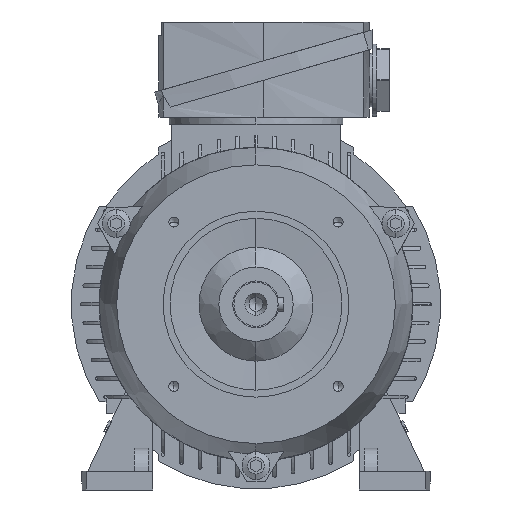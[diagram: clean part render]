
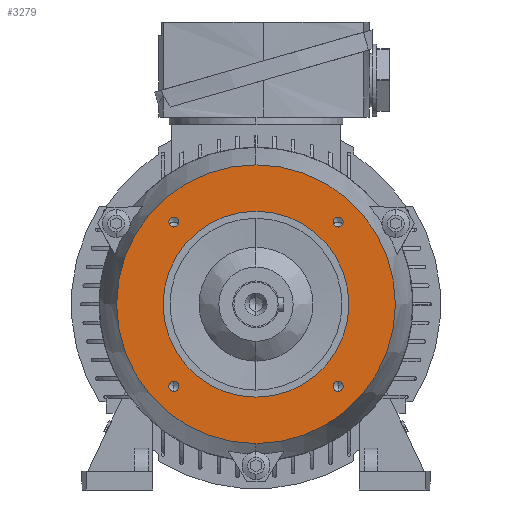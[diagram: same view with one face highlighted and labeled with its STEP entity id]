
A CAD part, left-side view. The second image highlights one B-rep face of the part: STEP entity #3279.
In plain terms, the highlighted planar face has unit normal (-1, 0, 0).
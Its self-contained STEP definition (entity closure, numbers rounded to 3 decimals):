
#621 = CIRCLE ( 'NONE', #19226, 2.15 ) ;
#624 = FACE_BOUND ( 'NONE', #10024, .T. ) ;
#949 = CIRCLE ( 'NONE', #7001, 2.15 ) ;
#1362 = CARTESIAN_POINT ( 'NONE',  ( -27., 35.355, -35.355 ) ) ;
#1414 = CARTESIAN_POINT ( 'NONE',  ( -27., 35.355, 37.505 ) ) ;
#1680 = CARTESIAN_POINT ( 'NONE',  ( -27., 0., -60. ) ) ;
#1695 = EDGE_CURVE ( 'NONE', #10846, #3134, #2193, .T. ) ;
#2193 = CIRCLE ( 'NONE', #18584, 60. ) ;
#2421 = DIRECTION ( 'NONE',  ( 1., 0., 0. ) ) ;
#2943 = VERTEX_POINT ( 'NONE', #11198 ) ;
#3134 = VERTEX_POINT ( 'NONE', #17939 ) ;
#3193 = CARTESIAN_POINT ( 'NONE',  ( -27., -35.355, -35.355 ) ) ;
#3248 = CIRCLE ( 'NONE', #18990, 2.15 ) ;
#3279 = ADVANCED_FACE ( 'NONE', ( #624, #5279, #15620, #15005, #19806, #9826 ), #18789, .T. ) ;
#3372 = DIRECTION ( 'NONE',  ( 0., 0., -1. ) ) ;
#4160 = CARTESIAN_POINT ( 'NONE',  ( -27., -35.355, -35.355 ) ) ;
#4219 = AXIS2_PLACEMENT_3D ( 'NONE', #1362, #15030, #3372 ) ;
#4470 = CIRCLE ( 'NONE', #4219, 2.15 ) ;
#5172 = DIRECTION ( 'NONE',  ( 0., 0., -1. ) ) ;
#5279 = FACE_OUTER_BOUND ( 'NONE', #6655, .T. ) ;
#5456 = CIRCLE ( 'NONE', #23299, 60. ) ;
#5471 = DIRECTION ( 'NONE',  ( -1., 0., 0. ) ) ;
#5894 = ORIENTED_EDGE ( 'NONE', *, *, #11765, .T. ) ;
#6134 = DIRECTION ( 'NONE',  ( 0., 0., -1. ) ) ;
#6247 = AXIS2_PLACEMENT_3D ( 'NONE', #6466, #19710, #8416 ) ;
#6466 = CARTESIAN_POINT ( 'NONE',  ( -27., -35.355, 35.355 ) ) ;
#6655 = EDGE_LOOP ( 'NONE', ( #16643, #8516 ) ) ;
#6813 = AXIS2_PLACEMENT_3D ( 'NONE', #3193, #16696, #5172 ) ;
#7001 = AXIS2_PLACEMENT_3D ( 'NONE', #11500, #24404, #13462 ) ;
#7299 = CARTESIAN_POINT ( 'NONE',  ( -27., 35.355, 35.355 ) ) ;
#7329 = DIRECTION ( 'NONE',  ( 1., 0., 0. ) ) ;
#7637 = VERTEX_POINT ( 'NONE', #13809 ) ;
#8416 = DIRECTION ( 'NONE',  ( 0., 0., -1. ) ) ;
#8516 = ORIENTED_EDGE ( 'NONE', *, *, #9983, .F. ) ;
#8589 = EDGE_LOOP ( 'NONE', ( #14912, #15953 ) ) ;
#8891 = CARTESIAN_POINT ( 'NONE',  ( -27., -35.355, 35.355 ) ) ;
#8909 = CIRCLE ( 'NONE', #22128, 2.15 ) ;
#9105 = DIRECTION ( 'NONE',  ( 1., 0., 0. ) ) ;
#9234 = DIRECTION ( 'NONE',  ( 0., 0., -1. ) ) ;
#9456 = CARTESIAN_POINT ( 'NONE',  ( -27., 0., 50. ) ) ;
#9545 = ORIENTED_EDGE ( 'NONE', *, *, #14173, .T. ) ;
#9826 = FACE_BOUND ( 'NONE', #15149, .T. ) ;
#9983 = EDGE_CURVE ( 'NONE', #3134, #10846, #5456, .T. ) ;
#10024 = EDGE_LOOP ( 'NONE', ( #5894, #10687 ) ) ;
#10507 = CARTESIAN_POINT ( 'NONE',  ( -27., 35.355, -33.205 ) ) ;
#10650 = CARTESIAN_POINT ( 'NONE',  ( -27., 0., 40. ) ) ;
#10687 = ORIENTED_EDGE ( 'NONE', *, *, #13767, .T. ) ;
#10803 = DIRECTION ( 'NONE',  ( 1., 0., 0. ) ) ;
#10846 = VERTEX_POINT ( 'NONE', #1680 ) ;
#10858 = DIRECTION ( 'NONE',  ( 0., 0., -1. ) ) ;
#11198 = CARTESIAN_POINT ( 'NONE',  ( -27., -35.355, 33.205 ) ) ;
#11298 = DIRECTION ( 'NONE',  ( 1., 0., 0. ) ) ;
#11430 = DIRECTION ( 'NONE',  ( 0., 0., 1. ) ) ;
#11500 = CARTESIAN_POINT ( 'NONE',  ( -27., 35.355, 35.355 ) ) ;
#11658 = EDGE_CURVE ( 'NONE', #2943, #15270, #24489, .T. ) ;
#11689 = EDGE_CURVE ( 'NONE', #21437, #14285, #19649, .T. ) ;
#11728 = EDGE_CURVE ( 'NONE', #20915, #22514, #4470, .T. ) ;
#11733 = EDGE_CURVE ( 'NONE', #20556, #20325, #3248, .T. ) ;
#11765 = EDGE_CURVE ( 'NONE', #17307, #7637, #22767, .T. ) ;
#12340 = CARTESIAN_POINT ( 'NONE',  ( -27., -35.355, -33.205 ) ) ;
#13462 = DIRECTION ( 'NONE',  ( 0., 0., -1. ) ) ;
#13537 = CARTESIAN_POINT ( 'NONE',  ( -27., -35.355, -37.505 ) ) ;
#13712 = ORIENTED_EDGE ( 'NONE', *, *, #11689, .T. ) ;
#13767 = EDGE_CURVE ( 'NONE', #7637, #17307, #13808, .T. ) ;
#13796 = ORIENTED_EDGE ( 'NONE', *, *, #13871, .T. ) ;
#13808 = CIRCLE ( 'NONE', #15919, 40. ) ;
#13809 = CARTESIAN_POINT ( 'NONE',  ( -27., 0., -40. ) ) ;
#13871 = EDGE_CURVE ( 'NONE', #20325, #20556, #949, .T. ) ;
#13986 = EDGE_CURVE ( 'NONE', #22514, #20915, #8909, .T. ) ;
#14106 = CARTESIAN_POINT ( 'NONE',  ( -27., 0., 0. ) ) ;
#14173 = EDGE_CURVE ( 'NONE', #14285, #21437, #621, .T. ) ;
#14210 = CARTESIAN_POINT ( 'NONE',  ( -27., 35.355, 33.205 ) ) ;
#14275 = EDGE_CURVE ( 'NONE', #15270, #2943, #21776, .T. ) ;
#14285 = VERTEX_POINT ( 'NONE', #12340 ) ;
#14591 = ORIENTED_EDGE ( 'NONE', *, *, #11658, .T. ) ;
#14912 = ORIENTED_EDGE ( 'NONE', *, *, #11728, .T. ) ;
#15005 = FACE_BOUND ( 'NONE', #8589, .T. ) ;
#15030 = DIRECTION ( 'NONE',  ( 1., 0., 0. ) ) ;
#15149 = EDGE_LOOP ( 'NONE', ( #14591, #18749 ) ) ;
#15270 = VERTEX_POINT ( 'NONE', #15896 ) ;
#15620 = FACE_BOUND ( 'NONE', #19174, .T. ) ;
#15896 = CARTESIAN_POINT ( 'NONE',  ( -27., -35.355, 37.505 ) ) ;
#15919 = AXIS2_PLACEMENT_3D ( 'NONE', #21930, #10803, #23776 ) ;
#15953 = ORIENTED_EDGE ( 'NONE', *, *, #13986, .T. ) ;
#15999 = DIRECTION ( 'NONE',  ( 0., 0., -1. ) ) ;
#16339 = CARTESIAN_POINT ( 'NONE',  ( -27., 35.355, -37.505 ) ) ;
#16643 = ORIENTED_EDGE ( 'NONE', *, *, #1695, .F. ) ;
#16696 = DIRECTION ( 'NONE',  ( 1., 0., 0. ) ) ;
#16982 = EDGE_LOOP ( 'NONE', ( #13712, #9545 ) ) ;
#17072 = ORIENTED_EDGE ( 'NONE', *, *, #11733, .T. ) ;
#17307 = VERTEX_POINT ( 'NONE', #10650 ) ;
#17595 = DIRECTION ( 'NONE',  ( 1., 0., 0. ) ) ;
#17885 = AXIS2_PLACEMENT_3D ( 'NONE', #8891, #21971, #10858 ) ;
#17939 = CARTESIAN_POINT ( 'NONE',  ( -27., 0., 60. ) ) ;
#18584 = AXIS2_PLACEMENT_3D ( 'NONE', #18702, #7329, #20514 ) ;
#18702 = CARTESIAN_POINT ( 'NONE',  ( -27., 0., 0. ) ) ;
#18749 = ORIENTED_EDGE ( 'NONE', *, *, #14275, .T. ) ;
#18789 = PLANE ( 'NONE',  #20850 ) ;
#18990 = AXIS2_PLACEMENT_3D ( 'NONE', #7299, #20483, #9234 ) ;
#19174 = EDGE_LOOP ( 'NONE', ( #17072, #13796 ) ) ;
#19226 = AXIS2_PLACEMENT_3D ( 'NONE', #4160, #17595, #6134 ) ;
#19649 = CIRCLE ( 'NONE', #6813, 2.15 ) ;
#19710 = DIRECTION ( 'NONE',  ( 1., 0., 0. ) ) ;
#19806 = FACE_BOUND ( 'NONE', #16982, .T. ) ;
#20325 = VERTEX_POINT ( 'NONE', #1414 ) ;
#20365 = CARTESIAN_POINT ( 'NONE',  ( -27., 35.355, -35.355 ) ) ;
#20483 = DIRECTION ( 'NONE',  ( 1., 0., 0. ) ) ;
#20514 = DIRECTION ( 'NONE',  ( 0., 0., -1. ) ) ;
#20556 = VERTEX_POINT ( 'NONE', #14210 ) ;
#20850 = AXIS2_PLACEMENT_3D ( 'NONE', #9456, #5471, #11430 ) ;
#20915 = VERTEX_POINT ( 'NONE', #16339 ) ;
#21437 = VERTEX_POINT ( 'NONE', #13537 ) ;
#21776 = CIRCLE ( 'NONE', #6247, 2.15 ) ;
#21930 = CARTESIAN_POINT ( 'NONE',  ( -27., 0., 0. ) ) ;
#21971 = DIRECTION ( 'NONE',  ( 1., 0., 0. ) ) ;
#22128 = AXIS2_PLACEMENT_3D ( 'NONE', #20365, #9105, #22182 ) ;
#22182 = DIRECTION ( 'NONE',  ( 0., 0., -1. ) ) ;
#22380 = CARTESIAN_POINT ( 'NONE',  ( -27., 0., 0. ) ) ;
#22514 = VERTEX_POINT ( 'NONE', #10507 ) ;
#22767 = CIRCLE ( 'NONE', #23780, 40. ) ;
#23299 = AXIS2_PLACEMENT_3D ( 'NONE', #14106, #2421, #15999 ) ;
#23776 = DIRECTION ( 'NONE',  ( 0., 0., 1. ) ) ;
#23780 = AXIS2_PLACEMENT_3D ( 'NONE', #22380, #11298, #24222 ) ;
#24222 = DIRECTION ( 'NONE',  ( 0., 0., 1. ) ) ;
#24404 = DIRECTION ( 'NONE',  ( 1., 0., 0. ) ) ;
#24489 = CIRCLE ( 'NONE', #17885, 2.15 ) ;
